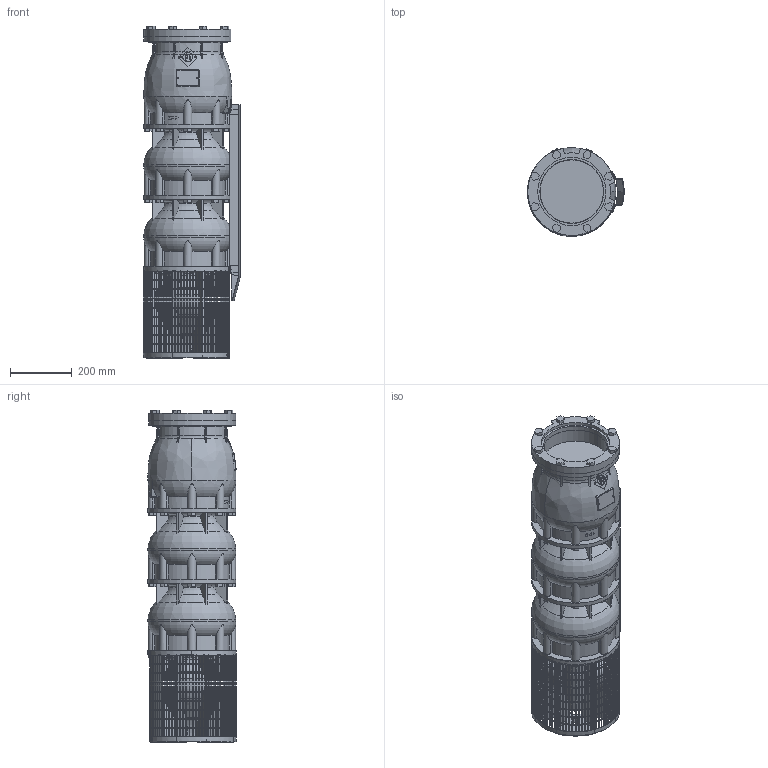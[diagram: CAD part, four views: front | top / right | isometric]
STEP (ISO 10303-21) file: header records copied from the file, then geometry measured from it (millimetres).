
FILE_DESCRIPTION(/* description */ ('-'),/* implementation_level */ '2;1');
FILE_NAME(/* name */ 'VSI454-2-2C_WF_M10-50_DME',/* time_stamp */ '2026-01-21T14:24:00+01:00',/* author */ ('Simonelli M.'),/* organization */ ('Franklin Electric Srl'),/* preprocessor_version */ 'ST-DEVELOPER v18.102',/* originating_system */ 'Solid Edge',/* authorisation */ 'Unknown');
FILE_SCHEMA (('AUTOMOTIVE_DESIGN { 1 0 10303 214 3 1 1 }','MODEL_BASED_INTEGRATED_MANUFACTURING_SCHEMA','AUTOMOTIVE_DESIGN {1 0 10303 214 3 1 1}'));
Products named in the file (12): VSI454-2-2C_WF_M10-50_DME; VSI344-454_testata; VSI344-454_supporto; VSI344-454_filtro_A; VSI344-454_filtro_B; VSI344-454_terminale_top_copricavo_medio; VSI344-454_terminale_bottom_copricavo_medio; MID 454-2; VSI454_diffusore; M5X8_UNI7687; VSI184-254_giunto_10×10; VSI344-454_flangia_testata
Assembly tree (21 placements, depth 2):
  VSI454-2-2C_WF_M10-50_DME
    VSI344-454_testata
    VSI344-454_supporto
    VSI344-454_filtro_A
    VSI344-454_filtro_B
    VSI344-454_terminale_top_copricavo_medio
    VSI344-454_terminale_bottom_copricavo_medio
    MID 454-2
    VSI454_diffusore  x2
    M5X8_UNI7687  x10
    VSI184-254_giunto_10×10
    VSI344-454_flangia_testata
Bounding box: 314.3 x 286 x 1075 mm (x, y, z)
Volume: 40798454 mm3; surface area: 2448694.2 mm2
Topology: 86 solids, 86 shells, 3997 faces, 11249 edges, 7471 vertices
Faces by surface type: plane 3270, cylinder 452, torus 173, cone 77, bspline 15, sphere 10
Full cylindrical faces by diameter (mm): 5 x10, 16 x8, 35 x1, 65 x1, 69 x1, 150 x1, 207 x1, 220.5 x1, 284.507 x2, 285 x2
Entity records: 124559 total; most frequent: CARTESIAN_POINT 28070, ORIENTED_EDGE 20264, DIRECTION 19360, EDGE_CURVE 10132, VERTEX_POINT 6757, AXIS2_PLACEMENT_3D 6538, LINE 6284, VECTOR 6284
